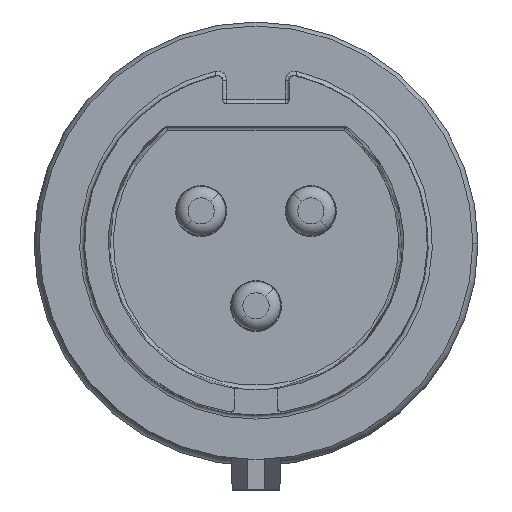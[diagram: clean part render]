
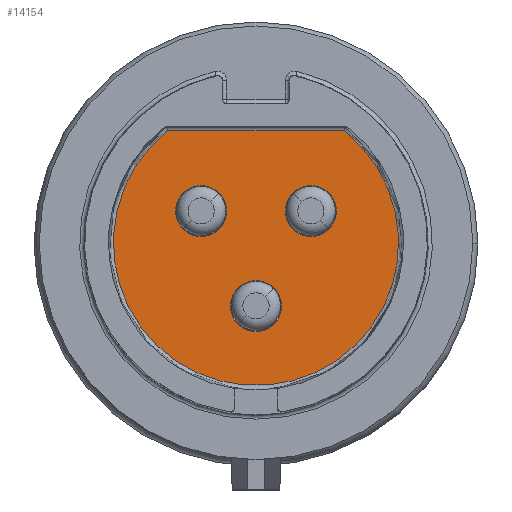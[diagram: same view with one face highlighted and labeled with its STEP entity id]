
A CAD part, top view. The second image highlights one B-rep face of the part: STEP entity #14154.
In plain terms, the highlighted planar face has unit normal (0, 0, 1).
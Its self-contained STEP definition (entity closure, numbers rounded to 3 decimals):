
#1930=DIRECTION('',(1.,0.,0.));
#1931=VECTOR('',#1930,21.427);
#1932=CARTESIAN_POINT('',(-10.713,13.65,0.));
#1933=LINE('1066',#1932,#1931);
#1934=CARTESIAN_POINT('',(0.,0.,0.));
#1935=DIRECTION('',(0.,0.,1.));
#1936=DIRECTION('',(-0.617,0.787,0.));
#1937=AXIS2_PLACEMENT_3D('',#1934,#1935,#1936);
#1939=CARTESIAN_POINT('',(6.668,3.85,0.));
#1940=DIRECTION('',(0.,0.,1.));
#1941=DIRECTION('',(-1.,0.,0.));
#1942=AXIS2_PLACEMENT_3D('',#1939,#1940,#1941);
#1944=CARTESIAN_POINT('',(6.668,3.85,0.));
#1945=DIRECTION('',(0.,0.,1.));
#1946=DIRECTION('',(1.,0.,0.));
#1947=AXIS2_PLACEMENT_3D('',#1944,#1945,#1946);
#1949=CARTESIAN_POINT('',(-6.668,3.85,0.));
#1950=DIRECTION('',(0.,0.,1.));
#1951=DIRECTION('',(-1.,0.,0.));
#1952=AXIS2_PLACEMENT_3D('',#1949,#1950,#1951);
#1954=CARTESIAN_POINT('',(-6.668,3.85,0.));
#1955=DIRECTION('',(0.,0.,1.));
#1956=DIRECTION('',(1.,0.,0.));
#1957=AXIS2_PLACEMENT_3D('',#1954,#1955,#1956);
#1959=CARTESIAN_POINT('',(0.,-7.7,0.));
#1960=DIRECTION('',(0.,0.,1.));
#1961=DIRECTION('',(-1.,0.,0.));
#1962=AXIS2_PLACEMENT_3D('',#1959,#1960,#1961);
#1964=CARTESIAN_POINT('',(0.,-7.7,0.));
#1965=DIRECTION('',(0.,0.,1.));
#1966=DIRECTION('',(1.,0.,0.));
#1967=AXIS2_PLACEMENT_3D('',#1964,#1965,#1966);
#9395=CARTESIAN_POINT('',(3.568,3.85,0.));
#9396=CARTESIAN_POINT('',(9.768,3.85,0.));
#9397=VERTEX_POINT('',#9395);
#9398=VERTEX_POINT('',#9396);
#9399=CARTESIAN_POINT('',(-9.768,3.85,0.));
#9400=CARTESIAN_POINT('',(-3.568,3.85,0.));
#9401=VERTEX_POINT('',#9399);
#9402=VERTEX_POINT('',#9400);
#9403=CARTESIAN_POINT('',(-10.713,13.65,0.));
#9404=CARTESIAN_POINT('',(10.713,13.65,0.));
#9405=VERTEX_POINT('',#9403);
#9406=VERTEX_POINT('',#9404);
#9433=CARTESIAN_POINT('',(-3.1,-7.7,0.));
#9434=CARTESIAN_POINT('',(3.1,-7.7,0.));
#9435=VERTEX_POINT('',#9433);
#9436=VERTEX_POINT('',#9434);
#14127=CARTESIAN_POINT('',(0.,0.,0.));
#14128=DIRECTION('',(0.,0.,-1.));
#14129=DIRECTION('',(0.,1.,0.));
#14130=AXIS2_PLACEMENT_3D('',#14127,#14128,#14129);
#14131=PLANE('398',#14130);
#14132=ORIENTED_EDGE('1066',*,*,#14106,.T.);
#14133=ORIENTED_EDGE('1069',*,*,#14082,.F.);
#14134=EDGE_LOOP('398',(#14132,#14133));
#14135=FACE_OUTER_BOUND('398',#14134,.F.);
#14137=ORIENTED_EDGE('1062',*,*,#14136,.T.);
#14139=ORIENTED_EDGE('1063',*,*,#14138,.T.);
#14140=EDGE_LOOP('398',(#14137,#14139));
#14141=FACE_BOUND('398',#14140,.F.);
#14143=ORIENTED_EDGE('1064',*,*,#14142,.T.);
#14145=ORIENTED_EDGE('1065',*,*,#14144,.T.);
#14146=EDGE_LOOP('398',(#14143,#14145));
#14147=FACE_BOUND('398',#14146,.F.);
#14149=ORIENTED_EDGE('1104',*,*,#14148,.T.);
#14151=ORIENTED_EDGE('1105',*,*,#14150,.T.);
#14152=EDGE_LOOP('398',(#14149,#14151));
#14153=FACE_BOUND('398',#14152,.F.);
#1938=CIRCLE('1069',#1937,17.352);
#1943=CIRCLE('1062',#1942,3.1);
#1948=CIRCLE('1063',#1947,3.1);
#1953=CIRCLE('1064',#1952,3.1);
#1958=CIRCLE('1065',#1957,3.1);
#1963=CIRCLE('1104',#1962,3.1);
#1968=CIRCLE('1105',#1967,3.1);
#14082=EDGE_CURVE('1069',#9405,#9406,#1938,.T.);
#14106=EDGE_CURVE('1066',#9405,#9406,#1933,.T.);
#14136=EDGE_CURVE('1062',#9397,#9398,#1943,.T.);
#14138=EDGE_CURVE('1063',#9398,#9397,#1948,.T.);
#14142=EDGE_CURVE('1064',#9401,#9402,#1953,.T.);
#14144=EDGE_CURVE('1065',#9402,#9401,#1958,.T.);
#14148=EDGE_CURVE('1104',#9435,#9436,#1963,.T.);
#14150=EDGE_CURVE('1105',#9436,#9435,#1968,.T.);
#14154=ADVANCED_FACE('398',(#14135,#14141,#14147,#14153),#14131,.F.);
